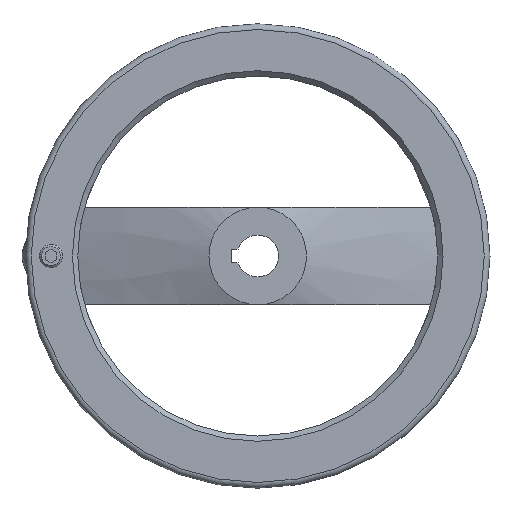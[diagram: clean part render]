
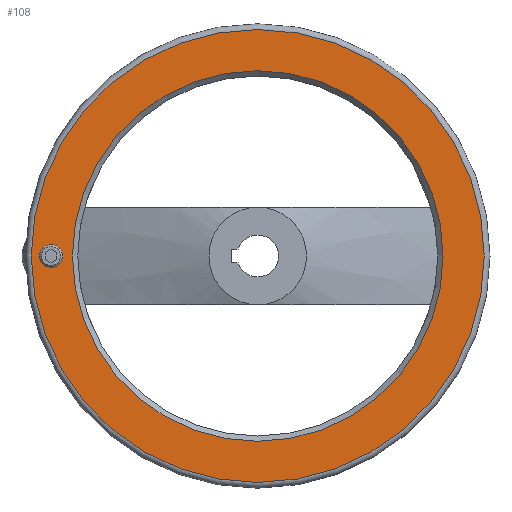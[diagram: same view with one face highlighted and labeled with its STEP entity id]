
A CAD part, left-side view. The second image highlights one B-rep face of the part: STEP entity #108.
In plain terms, the highlighted planar face has unit normal (-1, 0, 0).
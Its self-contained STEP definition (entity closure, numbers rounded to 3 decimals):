
#108 = ADVANCED_FACE( '', ( #197, #198, #199 ), #200, .T. );
#197 = FACE_OUTER_BOUND( '', #339, .T. );
#198 = FACE_BOUND( '', #340, .T. );
#199 = FACE_BOUND( '', #341, .T. );
#200 = PLANE( '', #342 );
#339 = EDGE_LOOP( '', ( #585 ) );
#340 = EDGE_LOOP( '', ( #586 ) );
#341 = EDGE_LOOP( '', ( #587 ) );
#342 = AXIS2_PLACEMENT_3D( '', #588, #589, #590 );
#585 = ORIENTED_EDGE( '', *, *, #709, .T. );
#586 = ORIENTED_EDGE( '', *, *, #677, .T. );
#587 = ORIENTED_EDGE( '', *, *, #707, .F. );
#588 = CARTESIAN_POINT( '', ( 24.5, -79.778, 0. ) );
#589 = DIRECTION( '', ( -1., 0., 0. ) );
#590 = DIRECTION( '', ( 0., 0., 1. ) );
#677 = EDGE_CURVE( '', #798, #798, #799, .T. );
#707 = EDGE_CURVE( '', #843, #843, #844, .T. );
#709 = EDGE_CURVE( '', #847, #847, #848, .T. );
#798 = VERTEX_POINT( '', #1094 );
#799 = CIRCLE( '', #1095, 5. );
#843 = VERTEX_POINT( '', #1153 );
#844 = CIRCLE( '', #1154, 79.778 );
#847 = VERTEX_POINT( '', #1157 );
#848 = CIRCLE( '', #1158, 97.5 );
#1094 = CARTESIAN_POINT( '', ( 24.5, 89., -5. ) );
#1095 = AXIS2_PLACEMENT_3D( '', #1218, #1219, #1220 );
#1153 = CARTESIAN_POINT( '', ( 24.5, 0., 79.778 ) );
#1154 = AXIS2_PLACEMENT_3D( '', #1277, #1278, #1279 );
#1157 = CARTESIAN_POINT( '', ( 24.5, 0., 97.5 ) );
#1158 = AXIS2_PLACEMENT_3D( '', #1283, #1284, #1285 );
#1218 = CARTESIAN_POINT( '', ( 24.5, 89., 0. ) );
#1219 = DIRECTION( '', ( 1., 0., 0. ) );
#1220 = DIRECTION( '', ( 0., 0., -1. ) );
#1277 = CARTESIAN_POINT( '', ( 24.5, 0., 0. ) );
#1278 = DIRECTION( '', ( -1., 0., 0. ) );
#1279 = DIRECTION( '', ( 0., 0., 1. ) );
#1283 = CARTESIAN_POINT( '', ( 24.5, 0., 0. ) );
#1284 = DIRECTION( '', ( -1., 0., 0. ) );
#1285 = DIRECTION( '', ( 0., 0., 1. ) );
